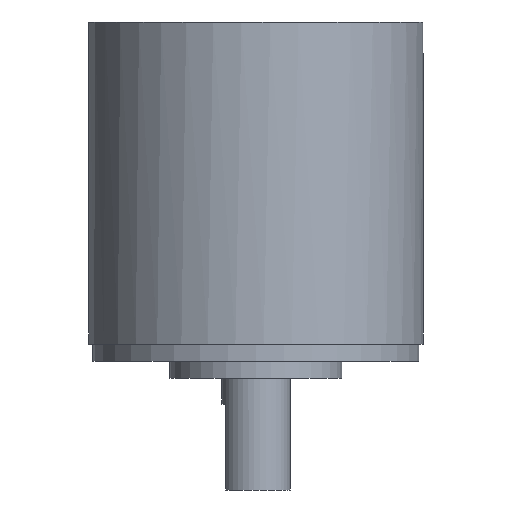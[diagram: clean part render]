
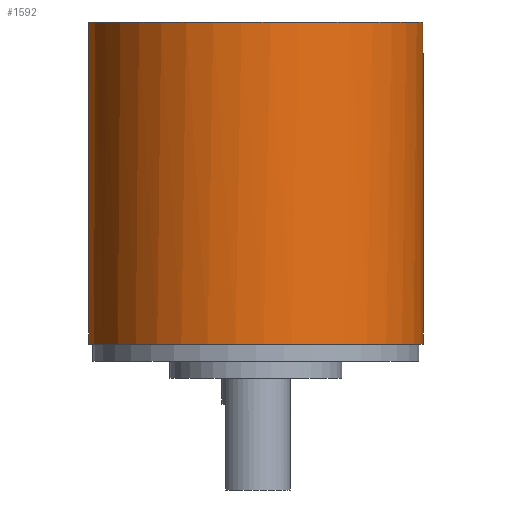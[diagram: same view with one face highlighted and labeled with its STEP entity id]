
A CAD part, front view. The second image highlights one B-rep face of the part: STEP entity #1592.
In plain terms, the highlighted cylindrical face has radius 19.5 mm (diameter 39 mm), a full revolution.
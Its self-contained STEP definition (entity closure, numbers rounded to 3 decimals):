
#1421=CARTESIAN_POINT('',(9.0,17.299,24.5));
#1422=VERTEX_POINT('',#1421);
#1439=CARTESIAN_POINT('',(9.0,17.299,39.5));
#1440=VERTEX_POINT('',#1439);
#1447=CARTESIAN_POINT('',(9.0,17.299,24.5));
#1448=DIRECTION('',(0.0,0.0,1.0));
#1449=VECTOR('',#1448,15.);
#1450=LINE('',#1447,#1449);
#1451=EDGE_CURVE('',#1422,#1440,#1450,.T.);
#1500=CARTESIAN_POINT('',(-9.0,17.299,24.5));
#1501=VERTEX_POINT('',#1500);
#1508=CARTESIAN_POINT('',(-9.0,17.299,39.5));
#1509=VERTEX_POINT('',#1508);
#1510=CARTESIAN_POINT('',(-9.0,17.299,39.5));
#1511=DIRECTION('',(0.0,0.0,-1.0));
#1512=VECTOR('',#1511,15.);
#1513=LINE('',#1510,#1512);
#1514=EDGE_CURVE('',#1509,#1501,#1513,.T.);
#1532=CARTESIAN_POINT('',(0.0,0.0,24.5));
#1533=DIRECTION('',(0.0,0.0,-1.0));
#1534=DIRECTION('',(-1.0,0.0,0.0));
#1535=AXIS2_PLACEMENT_3D('',#1532,#1533,#1534);
#1536=CIRCLE('',#1535,19.5);
#1537=EDGE_CURVE('',#1501,#1422,#1536,.T.);
#1549=CARTESIAN_POINT('',(19.5,0.,2.0));
#1550=VERTEX_POINT('',#1549);
#1551=CARTESIAN_POINT('',(0.0,0.0,2.0));
#1552=DIRECTION('',(0.0,0.0,-1.0));
#1553=DIRECTION('',(-1.0,0.0,0.0));
#1554=AXIS2_PLACEMENT_3D('',#1551,#1552,#1553);
#1555=CIRCLE('',#1554,19.5);
#1556=EDGE_CURVE('',#1550,#1550,#1555,.T.);
#1572=CARTESIAN_POINT('',(0.0,0.0,2.0));
#1573=DIRECTION('',(0.0,0.0,1.0));
#1574=DIRECTION('',(-1.0,0.0,0.0));
#1575=AXIS2_PLACEMENT_3D('',#1572,#1573,#1574);
#1576=CYLINDRICAL_SURFACE('',#1575,19.5);
#1577=ORIENTED_EDGE('',*,*,#1451,.T.);
#1578=CARTESIAN_POINT('',(0.0,0.0,39.5));
#1579=DIRECTION('',(0.0,0.0,-1.0));
#1580=DIRECTION('',(-1.0,0.0,0.0));
#1581=AXIS2_PLACEMENT_3D('',#1578,#1579,#1580);
#1582=CIRCLE('',#1581,19.5);
#1583=EDGE_CURVE('',#1440,#1509,#1582,.T.);
#1584=ORIENTED_EDGE('',*,*,#1583,.T.);
#1585=ORIENTED_EDGE('',*,*,#1514,.T.);
#1586=ORIENTED_EDGE('',*,*,#1537,.T.);
#1587=EDGE_LOOP('',(#1577,#1584,#1585,#1586));
#1588=FACE_OUTER_BOUND('',#1587,.T.);
#1589=ORIENTED_EDGE('',*,*,#1556,.F.);
#1590=EDGE_LOOP('',(#1589));
#1591=FACE_BOUND('',#1590,.T.);
#1592=ADVANCED_FACE('',(#1588,#1591),#1576,.T.);
